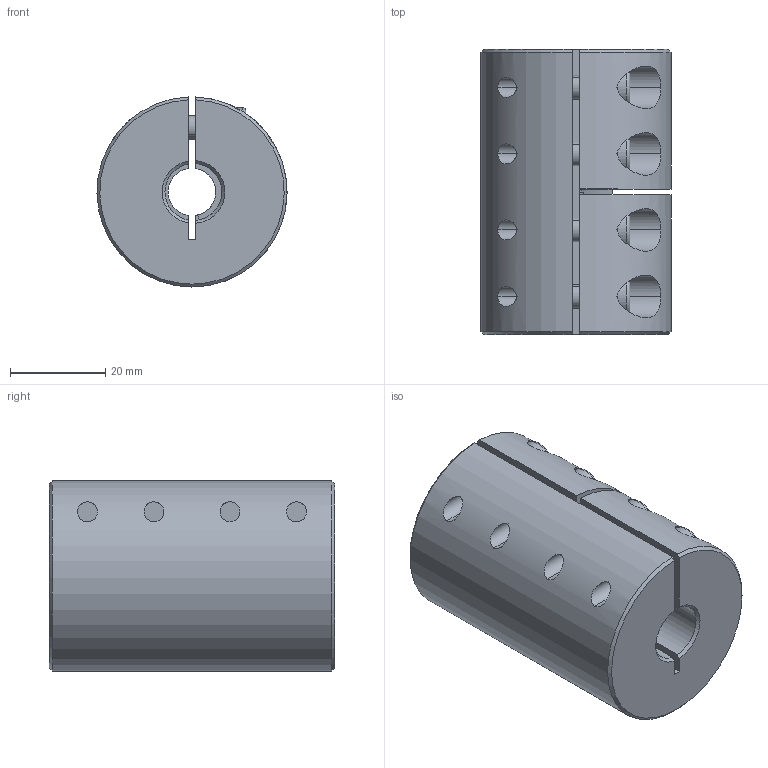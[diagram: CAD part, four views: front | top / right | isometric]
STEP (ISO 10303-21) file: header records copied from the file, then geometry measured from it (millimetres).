
FILE_DESCRIPTION (( 'STEP AP214' ), '1' );
FILE_NAME ('LL-B-D40L60-10-12½¨Ä£.STEP', '2022-07-22T00:52:46', ( '' ), ( '' ), 'SwSTEP 2.0', 'SolidWorks 2022', '' );
FILE_SCHEMA (( 'AUTOMOTIVE_DESIGN' ));
Length unit declared in the file: millimetre
Products named in the file (1): LL-B-D40L60-10-12膘耀
Bounding box: 40 x 60 x 39.99 mm (x, y, z)
Volume: 65853 mm3; surface area: 17493.5 mm2
Topology: 1 solids, 1 shells, 182 faces, 463 edges, 291 vertices
Faces by surface type: plane 88, cylinder 71, cone 15, torus 8
Entity records: 6015 total; most frequent: CARTESIAN_POINT 1525, DIRECTION 971, ORIENTED_EDGE 910, EDGE_CURVE 455, AXIS2_PLACEMENT_3D 377, VERTEX_POINT 291, LINE 217, VECTOR 217
